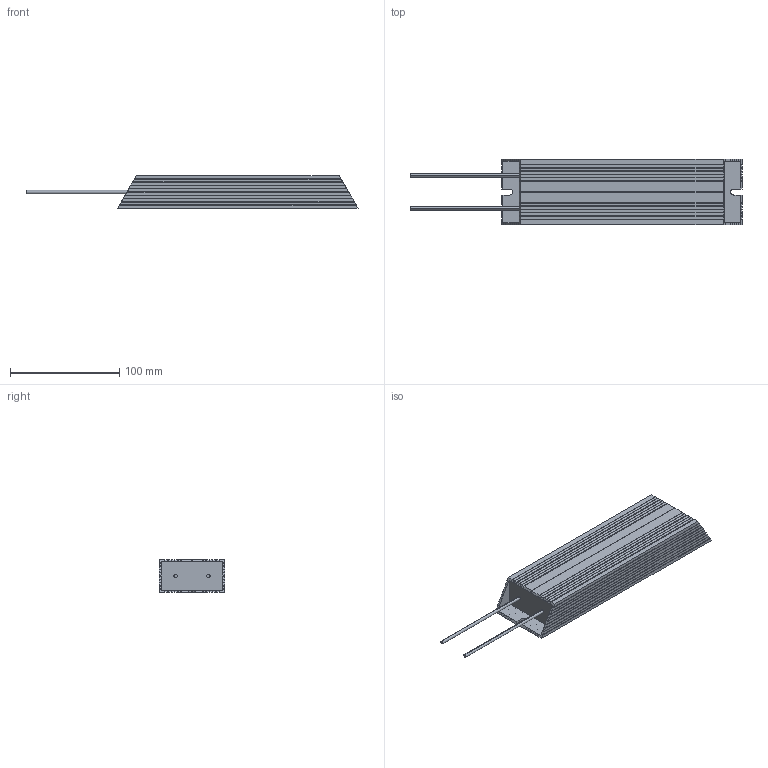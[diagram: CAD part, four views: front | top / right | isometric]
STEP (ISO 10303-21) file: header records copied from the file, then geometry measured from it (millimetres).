
FILE_DESCRIPTION (( 'STEP AP203' ), '1' );
FILE_NAME ('Ðåçèñòîð òîðìîçíîé _ IBRA-300-300-IP54.STEP', '2025-03-27T08:58:22', ( '' ), ( '' ), 'SwSTEP 2.0', 'SolidWorks 2021', '' );
FILE_SCHEMA (( 'CONFIG_CONTROL_DESIGN' ));
Length unit declared in the file: millimetre
Products named in the file (1): Ðåçèñòîð òîðìîçíîé _ IBRA-300-300-IP54
Bounding box: 303.83 x 60 x 30 mm (x, y, z)
Volume: 340062.4 mm3; surface area: 64181.6 mm2
Topology: 1 solids, 1 shells, 216 faces, 635 edges, 423 vertices
Faces by surface type: plane 152, cylinder 64
Entity records: 7135 total; most frequent: CARTESIAN_POINT 1625, ORIENTED_EDGE 1270, DIRECTION 970, EDGE_CURVE 635, LINE 506, VECTOR 506, VERTEX_POINT 423, AXIS2_PLACEMENT_3D 232
